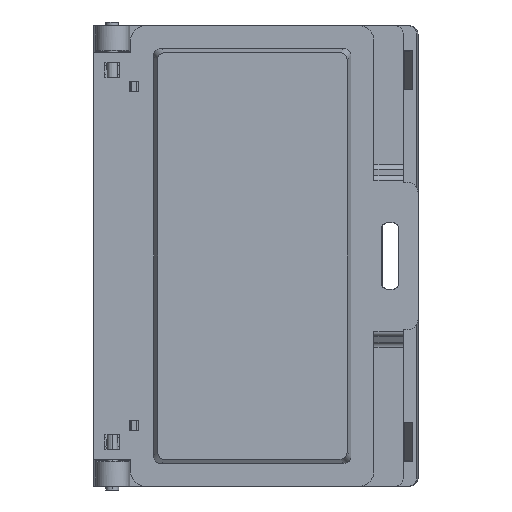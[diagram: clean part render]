
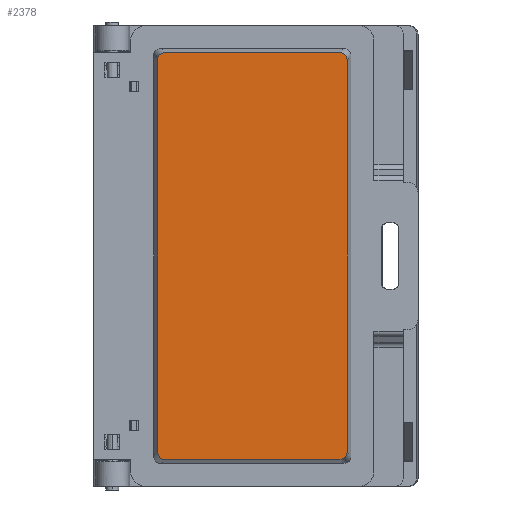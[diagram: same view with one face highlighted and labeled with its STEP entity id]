
A CAD part, front view. The second image highlights one B-rep face of the part: STEP entity #2378.
In plain terms, the highlighted planar face has unit normal (0, -1, 0) as drawn and (0, 0, 1) by its records, which use the part's own axes.
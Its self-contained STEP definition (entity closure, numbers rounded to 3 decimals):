
#396 = ORIENTED_EDGE ( 'NONE', *, *, #5808, .F. ) ;
#522 = CARTESIAN_POINT ( 'NONE',  ( -23.768, 55.2, 14.3 ) ) ;
#650 = CARTESIAN_POINT ( 'NONE',  ( 23.768, 55.2, 14.3 ) ) ;
#902 = CARTESIAN_POINT ( 'NONE',  ( 25.7, 53.268, 14.3 ) ) ;
#990 = CARTESIAN_POINT ( 'NONE',  ( -25.7, 0., 14.3 ) ) ;
#1176 = EDGE_CURVE ( 'NONE', #7352, #7973, #2959, .T. ) ;
#1305 = DIRECTION ( 'NONE',  ( -1., 0., 0. ) ) ;
#1788 = VERTEX_POINT ( 'NONE', #902 ) ;
#1799 = EDGE_CURVE ( 'NONE', #13224, #14659, #6146, .T. ) ;
#1954 = CARTESIAN_POINT ( 'NONE',  ( -25.7, -53.268, 14.3 ) ) ;
#2141 = CARTESIAN_POINT ( 'NONE',  ( -25.7, 54.415, 14.3 ) ) ;
#2246 = DIRECTION ( 'NONE',  ( -1., 0., 0. ) ) ;
#2378 = ADVANCED_FACE ( 'NONE', ( #9332 ), #16594, .F. ) ;
#2424 = ORIENTED_EDGE ( 'NONE', *, *, #1799, .T. ) ;
#2447 = ORIENTED_EDGE ( 'NONE', *, *, #15544, .F. ) ;
#2492 = CARTESIAN_POINT ( 'NONE',  ( 25.7, -53.268, 14.3 ) ) ;
#2533 = CARTESIAN_POINT ( 'NONE',  ( 0., 55.2, 14.3 ) ) ;
#2599 = CARTESIAN_POINT ( 'NONE',  ( 25.7, -54.415, 14.3 ) ) ;
#2959 =( BOUNDED_CURVE ( )  B_SPLINE_CURVE ( 3, ( #15597, #9763, #2599, #2492 ),
 .UNSPECIFIED., .F., .F. ) 
 B_SPLINE_CURVE_WITH_KNOTS ( ( 4, 4 ),
 ( 2.39, 3.893 ),
 .UNSPECIFIED. ) 
 CURVE ( )  GEOMETRIC_REPRESENTATION_ITEM ( )  RATIONAL_B_SPLINE_CURVE ( ( 1., 0.82, 0.82, 1. ) ) 
 REPRESENTATION_ITEM ( '' )  );
#3323 = CARTESIAN_POINT ( 'NONE',  ( -23.768, -55.2, 14.3 ) ) ;
#3568 = CARTESIAN_POINT ( 'NONE',  ( -24.915, -55.2, 14.3 ) ) ;
#3887 = VECTOR ( 'NONE', #17321, 1000. ) ;
#3978 =( BOUNDED_CURVE ( )  B_SPLINE_CURVE ( 3, ( #1954, #16486, #3568, #9414 ),
 .UNSPECIFIED., .F., .F. ) 
 B_SPLINE_CURVE_WITH_KNOTS ( ( 4, 4 ),
 ( 2.39, 3.893 ),
 .UNSPECIFIED. ) 
 CURVE ( )  GEOMETRIC_REPRESENTATION_ITEM ( )  RATIONAL_B_SPLINE_CURVE ( ( 1., 0.82, 0.82, 1. ) ) 
 REPRESENTATION_ITEM ( '' )  );
#4420 = EDGE_CURVE ( 'NONE', #13224, #5302, #6856, .T. ) ;
#4756 = ORIENTED_EDGE ( 'NONE', *, *, #4420, .F. ) ;
#5302 = VERTEX_POINT ( 'NONE', #13776 ) ;
#5808 = EDGE_CURVE ( 'NONE', #11203, #14659, #15877, .T. ) ;
#6146 =( BOUNDED_CURVE ( )  B_SPLINE_CURVE ( 3, ( #522, #6550, #2141, #15440 ),
 .UNSPECIFIED., .F., .F. ) 
 B_SPLINE_CURVE_WITH_KNOTS ( ( 4, 4 ),
 ( 2.39, 3.893 ),
 .UNSPECIFIED. ) 
 CURVE ( )  GEOMETRIC_REPRESENTATION_ITEM ( )  RATIONAL_B_SPLINE_CURVE ( ( 1., 0.82, 0.82, 1. ) ) 
 REPRESENTATION_ITEM ( '' )  );
#6550 = CARTESIAN_POINT ( 'NONE',  ( -24.915, 55.2, 14.3 ) ) ;
#6850 = DIRECTION ( 'NONE',  ( 0., 0., -1. ) ) ;
#6856 = LINE ( 'NONE', #2533, #11935 ) ;
#7352 = VERTEX_POINT ( 'NONE', #8717 ) ;
#7385 = ORIENTED_EDGE ( 'NONE', *, *, #12092, .T. ) ;
#7899 = AXIS2_PLACEMENT_3D ( 'NONE', #13928, #6850, #2246 ) ;
#7924 = CARTESIAN_POINT ( 'NONE',  ( 25.7, 53.268, 14.3 ) ) ;
#7973 = VERTEX_POINT ( 'NONE', #15539 ) ;
#8362 = CARTESIAN_POINT ( 'NONE',  ( -23.768, 55.2, 14.3 ) ) ;
#8490 = VECTOR ( 'NONE', #18907, 1000. ) ;
#8717 = CARTESIAN_POINT ( 'NONE',  ( 23.768, -55.2, 14.3 ) ) ;
#8895 = VECTOR ( 'NONE', #1305, 1000. ) ;
#9332 = FACE_OUTER_BOUND ( 'NONE', #10072, .T. ) ;
#9414 = CARTESIAN_POINT ( 'NONE',  ( -23.768, -55.2, 14.3 ) ) ;
#9488 = EDGE_CURVE ( 'NONE', #7352, #18831, #17383, .T. ) ;
#9712 = DIRECTION ( 'NONE',  ( 1., 0., 0. ) ) ;
#9763 = CARTESIAN_POINT ( 'NONE',  ( 24.915, -55.2, 14.3 ) ) ;
#10072 = EDGE_LOOP ( 'NONE', ( #2424, #396, #16305, #18387, #15472, #2447, #7385, #4756 ) ) ;
#11203 = VERTEX_POINT ( 'NONE', #13912 ) ;
#11299 = CARTESIAN_POINT ( 'NONE',  ( -25.7, 53.268, 14.3 ) ) ;
#11536 = CARTESIAN_POINT ( 'NONE',  ( 25.7, 0., 14.3 ) ) ;
#11786 =( BOUNDED_CURVE ( )  B_SPLINE_CURVE ( 3, ( #7924, #12510, #18359, #650 ),
 .UNSPECIFIED., .F., .F. ) 
 B_SPLINE_CURVE_WITH_KNOTS ( ( 4, 4 ),
 ( 2.39, 3.893 ),
 .UNSPECIFIED. ) 
 CURVE ( )  GEOMETRIC_REPRESENTATION_ITEM ( )  RATIONAL_B_SPLINE_CURVE ( ( 1., 0.82, 0.82, 1. ) ) 
 REPRESENTATION_ITEM ( '' )  );
#11935 = VECTOR ( 'NONE', #9712, 1000. ) ;
#12092 = EDGE_CURVE ( 'NONE', #1788, #5302, #11786, .T. ) ;
#12510 = CARTESIAN_POINT ( 'NONE',  ( 25.7, 54.415, 14.3 ) ) ;
#13116 = EDGE_CURVE ( 'NONE', #11203, #18831, #3978, .T. ) ;
#13224 = VERTEX_POINT ( 'NONE', #8362 ) ;
#13776 = CARTESIAN_POINT ( 'NONE',  ( 23.768, 55.2, 14.3 ) ) ;
#13912 = CARTESIAN_POINT ( 'NONE',  ( -25.7, -53.268, 14.3 ) ) ;
#13928 = CARTESIAN_POINT ( 'NONE',  ( 25.7, -55.2, 14.3 ) ) ;
#14418 = CARTESIAN_POINT ( 'NONE',  ( 0., -55.2, 14.3 ) ) ;
#14659 = VERTEX_POINT ( 'NONE', #11299 ) ;
#15440 = CARTESIAN_POINT ( 'NONE',  ( -25.7, 53.268, 14.3 ) ) ;
#15472 = ORIENTED_EDGE ( 'NONE', *, *, #1176, .T. ) ;
#15539 = CARTESIAN_POINT ( 'NONE',  ( 25.7, -53.268, 14.3 ) ) ;
#15544 = EDGE_CURVE ( 'NONE', #1788, #7973, #18638, .T. ) ;
#15597 = CARTESIAN_POINT ( 'NONE',  ( 23.768, -55.2, 14.3 ) ) ;
#15877 = LINE ( 'NONE', #990, #3887 ) ;
#16305 = ORIENTED_EDGE ( 'NONE', *, *, #13116, .T. ) ;
#16486 = CARTESIAN_POINT ( 'NONE',  ( -25.7, -54.415, 14.3 ) ) ;
#16594 = PLANE ( 'NONE',  #7899 ) ;
#17321 = DIRECTION ( 'NONE',  ( 0., 1., 0. ) ) ;
#17383 = LINE ( 'NONE', #14418, #8895 ) ;
#18359 = CARTESIAN_POINT ( 'NONE',  ( 24.915, 55.2, 14.3 ) ) ;
#18387 = ORIENTED_EDGE ( 'NONE', *, *, #9488, .F. ) ;
#18638 = LINE ( 'NONE', #11536, #8490 ) ;
#18831 = VERTEX_POINT ( 'NONE', #3323 ) ;
#18907 = DIRECTION ( 'NONE',  ( 0., -1., 0. ) ) ;
